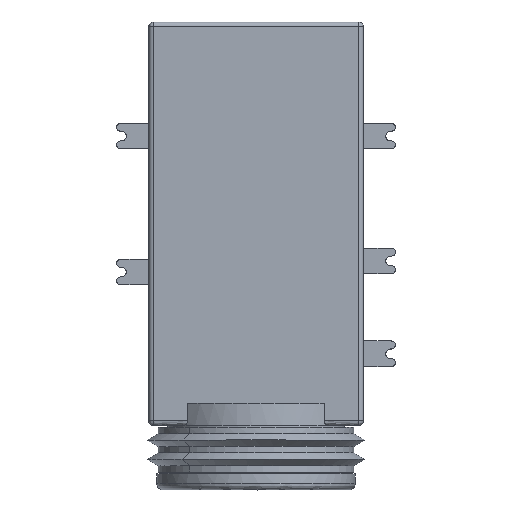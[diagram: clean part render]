
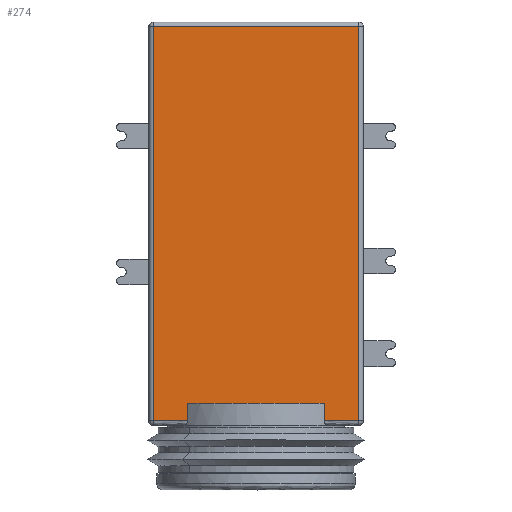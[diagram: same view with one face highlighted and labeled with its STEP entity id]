
A CAD part, top view. The second image highlights one B-rep face of the part: STEP entity #274.
In plain terms, the highlighted free-form (B-spline) face has degree [1, 1] with [2, 2] control points.
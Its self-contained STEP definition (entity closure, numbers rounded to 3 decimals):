
#274 = ADVANCED_FACE ( 'NONE', ( #16160 ), #6024, .T. ) ;
#499 = CARTESIAN_POINT ( 'NONE',  ( 2.132, -6., 2.25 ) ) ;
#641 = ORIENTED_EDGE ( 'NONE', *, *, #13043, .T. ) ;
#908 = CARTESIAN_POINT ( 'NONE',  ( 2.132, -5.45, 2.25 ) ) ;
#958 = VERTEX_POINT ( 'NONE', #9245 ) ;
#1759 = CARTESIAN_POINT ( 'NONE',  ( 3.2, 6.3, 2.25 ) ) ;
#2046 = VERTEX_POINT ( 'NONE', #12367 ) ;
#2616 = CARTESIAN_POINT ( 'NONE',  ( 3.328, -6.246, 2.25 ) ) ;
#2816 = VERTEX_POINT ( 'NONE', #11185 ) ;
#2817 = CARTESIAN_POINT ( 'NONE',  ( -3.2, 6.3, 2.25 ) ) ;
#3800 = CARTESIAN_POINT ( 'NONE',  ( -2.132, -6., 2.25 ) ) ;
#5607 = VERTEX_POINT ( 'NONE', #21751 ) ;
#5675 = B_SPLINE_CURVE_WITH_KNOTS ( 'NONE', 1,
 ( #21460, #2817 ),
 .UNSPECIFIED., .F., .F.,
 ( 2, 2 ),
 ( 0., 1. ),
 .UNSPECIFIED. ) ;
#6024 = B_SPLINE_SURFACE_WITH_KNOTS ( 'NONE', 1, 1, ( 
 ( #9516, #9743 ),
 ( #2616, #18276 ) ),
 .UNSPECIFIED., .F., .F., .F.,
 ( 2, 2 ),
 ( 2, 2 ),
 ( -3.328, 3.328 ),
 ( -6.246, 6.546 ),
 .UNSPECIFIED. ) ;
#6175 = EDGE_CURVE ( 'NONE', #2046, #5607, #6421, .T. ) ;
#6327 = CARTESIAN_POINT ( 'NONE',  ( -2.132, -5.45, 2.25 ) ) ;
#6421 = B_SPLINE_CURVE_WITH_KNOTS ( 'NONE', 1,
 ( #8041, #499 ),
 .UNSPECIFIED., .F., .F.,
 ( 2, 2 ),
 ( 0., 1. ),
 .UNSPECIFIED. ) ;
#7155 = VERTEX_POINT ( 'NONE', #1759 ) ;
#8041 = CARTESIAN_POINT ( 'NONE',  ( 2.132, -5.45, 2.25 ) ) ;
#8893 = VERTEX_POINT ( 'NONE', #3800 ) ;
#9245 = CARTESIAN_POINT ( 'NONE',  ( -3.2, 6.3, 2.25 ) ) ;
#9253 = ORIENTED_EDGE ( 'NONE', *, *, #14379, .T. ) ;
#9516 = CARTESIAN_POINT ( 'NONE',  ( -3.328, -6.246, 2.25 ) ) ;
#9743 = CARTESIAN_POINT ( 'NONE',  ( -3.328, 6.546, 2.25 ) ) ;
#9787 = CARTESIAN_POINT ( 'NONE',  ( -2.132, -6., 2.25 ) ) ;
#10042 = ORIENTED_EDGE ( 'NONE', *, *, #6175, .T. ) ;
#10741 = B_SPLINE_CURVE_WITH_KNOTS ( 'NONE', 1,
 ( #13254, #17906 ),
 .UNSPECIFIED., .F., .F.,
 ( 2, 2 ),
 ( 0., 1. ),
 .UNSPECIFIED. ) ;
#11185 = CARTESIAN_POINT ( 'NONE',  ( 3.2, -6., 2.25 ) ) ;
#11903 = CARTESIAN_POINT ( 'NONE',  ( -3.2, -6., 2.25 ) ) ;
#11991 = B_SPLINE_CURVE_WITH_KNOTS ( 'NONE', 1,
 ( #11903, #18761 ),
 .UNSPECIFIED., .F., .F.,
 ( 2, 2 ),
 ( 0., 1. ),
 .UNSPECIFIED. ) ;
#12367 = CARTESIAN_POINT ( 'NONE',  ( 2.132, -5.45, 2.25 ) ) ;
#12620 = EDGE_CURVE ( 'NONE', #8893, #12962, #18020, .T. ) ;
#12712 = B_SPLINE_CURVE_WITH_KNOTS ( 'NONE', 1,
 ( #19590, #13054 ),
 .UNSPECIFIED., .F., .F.,
 ( 2, 2 ),
 ( 0., 1. ),
 .UNSPECIFIED. ) ;
#12962 = VERTEX_POINT ( 'NONE', #21142 ) ;
#13043 = EDGE_CURVE ( 'NONE', #5607, #2816, #12712, .T. ) ;
#13054 = CARTESIAN_POINT ( 'NONE',  ( 3.2, -6., 2.25 ) ) ;
#13254 = CARTESIAN_POINT ( 'NONE',  ( -3.2, 6.3, 2.25 ) ) ;
#13895 = EDGE_LOOP ( 'NONE', ( #21867, #17841, #10042, #641, #9253, #18510, #17256, #14888 ) ) ;
#14379 = EDGE_CURVE ( 'NONE', #2816, #7155, #14991, .T. ) ;
#14577 = CARTESIAN_POINT ( 'NONE',  ( -2.132, -5.45, 2.25 ) ) ;
#14785 = VERTEX_POINT ( 'NONE', #16778 ) ;
#14888 = ORIENTED_EDGE ( 'NONE', *, *, #20561, .T. ) ;
#14991 = B_SPLINE_CURVE_WITH_KNOTS ( 'NONE', 1,
 ( #16581, #21456 ),
 .UNSPECIFIED., .F., .F.,
 ( 2, 2 ),
 ( 0., 1. ),
 .UNSPECIFIED. ) ;
#15385 = EDGE_CURVE ( 'NONE', #7155, #958, #5675, .T. ) ;
#16160 = FACE_OUTER_BOUND ( 'NONE', #13895, .T. ) ;
#16581 = CARTESIAN_POINT ( 'NONE',  ( 3.2, -6., 2.25 ) ) ;
#16778 = CARTESIAN_POINT ( 'NONE',  ( -3.2, -6., 2.25 ) ) ;
#17256 = ORIENTED_EDGE ( 'NONE', *, *, #20089, .T. ) ;
#17587 = EDGE_CURVE ( 'NONE', #12962, #2046, #19975, .T. ) ;
#17841 = ORIENTED_EDGE ( 'NONE', *, *, #17587, .T. ) ;
#17906 = CARTESIAN_POINT ( 'NONE',  ( -3.2, -6., 2.25 ) ) ;
#18020 = B_SPLINE_CURVE_WITH_KNOTS ( 'NONE', 1,
 ( #9787, #6327 ),
 .UNSPECIFIED., .F., .F.,
 ( 2, 2 ),
 ( 0., 1. ),
 .UNSPECIFIED. ) ;
#18276 = CARTESIAN_POINT ( 'NONE',  ( 3.328, 6.546, 2.25 ) ) ;
#18510 = ORIENTED_EDGE ( 'NONE', *, *, #15385, .T. ) ;
#18761 = CARTESIAN_POINT ( 'NONE',  ( -2.132, -6., 2.25 ) ) ;
#19590 = CARTESIAN_POINT ( 'NONE',  ( 2.132, -6., 2.25 ) ) ;
#19975 = B_SPLINE_CURVE_WITH_KNOTS ( 'NONE', 1,
 ( #14577, #908 ),
 .UNSPECIFIED., .F., .F.,
 ( 2, 2 ),
 ( 0., 1. ),
 .UNSPECIFIED. ) ;
#20089 = EDGE_CURVE ( 'NONE', #958, #14785, #10741, .T. ) ;
#20561 = EDGE_CURVE ( 'NONE', #14785, #8893, #11991, .T. ) ;
#21142 = CARTESIAN_POINT ( 'NONE',  ( -2.132, -5.45, 2.25 ) ) ;
#21456 = CARTESIAN_POINT ( 'NONE',  ( 3.2, 6.3, 2.25 ) ) ;
#21460 = CARTESIAN_POINT ( 'NONE',  ( 3.2, 6.3, 2.25 ) ) ;
#21751 = CARTESIAN_POINT ( 'NONE',  ( 2.132, -6., 2.25 ) ) ;
#21867 = ORIENTED_EDGE ( 'NONE', *, *, #12620, .T. ) ;
